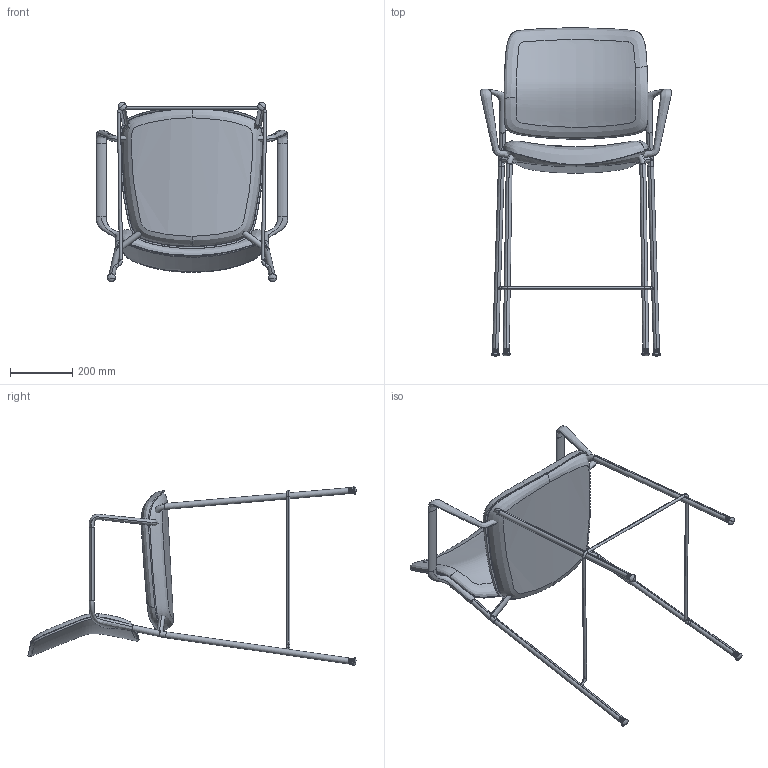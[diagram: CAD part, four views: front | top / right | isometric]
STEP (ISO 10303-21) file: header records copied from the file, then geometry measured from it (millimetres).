
FILE_DESCRIPTION (( 'STEP AP203' ), '1' );
FILE_NAME ('Counter Upholstered Loop (GLIDES).STEP', '2017-01-31T19:09:42', ( '' ), ( '' ), 'SwSTEP 2.0', 'SolidWorks 2016', '' );
FILE_SCHEMA (( 'CONFIG_CONTROL_DESIGN' ));
Length unit declared in the file: inch
Products named in the file (1): Counter Upholstered Loop (GLIDES)
Bounding box: 616.06 x 1054.87 x 577.38 mm (x, y, z)
Volume: 15266946 mm3; surface area: 2196522.8 mm2
Topology: 18 solids, 18 shells, 761 faces, 2020 edges, 1290 vertices
Faces by surface type: cylinder 279, plane 194, torus 162, cone 80, bspline 46
Entity records: 246327 total; most frequent: CARTESIAN_POINT 227846, ORIENTED_EDGE 4024, DIRECTION 3829, EDGE_CURVE 2012, AXIS2_PLACEMENT_3D 1638, VERTEX_POINT 1290, CIRCLE 922, EDGE_LOOP 778
